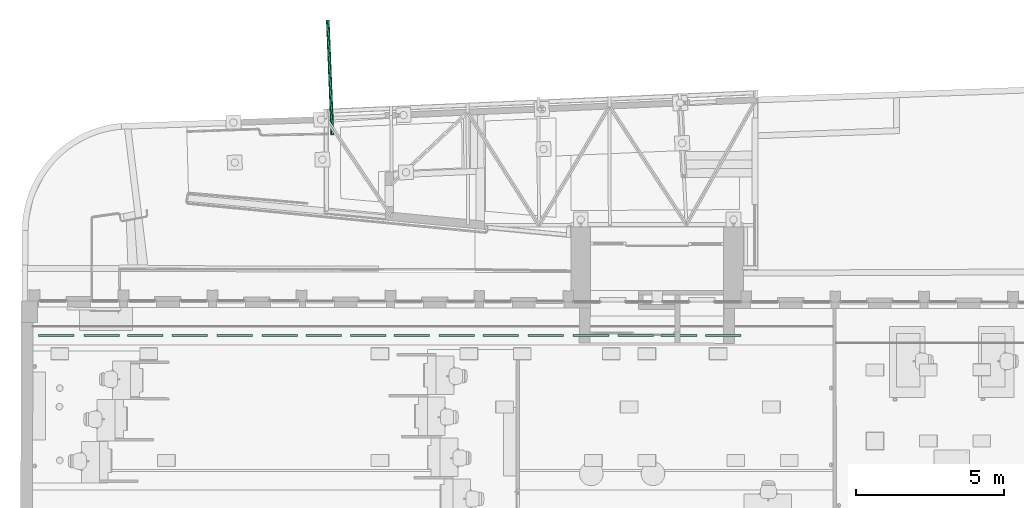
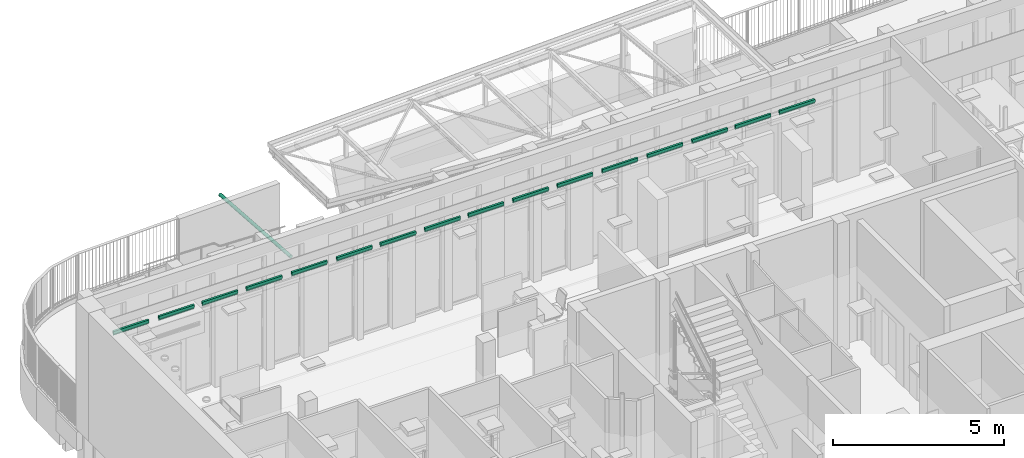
# One storey, part 66 of 128: 16 flow controllers, 1 flow segment.
"""IFC2X3 building model written with IfcOpenShell, lengths in metres."""

from ifc_helpers import new_model, entity, si_unit, converted_unit, derived_unit, direction, frame, origin, origin_2d_with_axis, place, context, subcontext, project, spatial, circle, extrude, faceted_brep, source, transform, mapped, material, material_list, type_object, type_shapes, element, save


model = new_model("IFC2X3")

# Units and contexts
model_context = context("Model", 3, precision=1e-05, world=origin(), true_north=direction((6.123031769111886e-17, 1.0)))
body_context = subcontext(model_context, "Body", "Model", "MODEL_VIEW")
ifc_project = project(units=[si_unit("LENGTHUNIT", "METRE"), si_unit("AREAUNIT", "SQUARE_METRE"), converted_unit("PLANEANGLEUNIT", "DEGREE", entity("IfcPlaneAngleMeasure", 0.017453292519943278), si_unit("PLANEANGLEUNIT", "RADIAN"), dimensions=[0, 0, 0, 0, 0, 0, 0]), derived_unit("THERMALTRANSMITTANCEUNIT", [(si_unit("MASSUNIT", "GRAM", prefix="KILO"), 1), (si_unit("THERMODYNAMICTEMPERATUREUNIT", "KELVIN"), -1), (si_unit("TIMEUNIT", "SECOND"), -3)])], contexts=[model_context])

# Site, building, storey
site_placement = place(None, origin())
site = spatial("IfcSite", under=ifc_project, at=site_placement, Name="Default", CompositionType="ELEMENT")
building_placement = place(site_placement, origin())
building = spatial("IfcBuilding", under=site, at=building_placement, CompositionType="ELEMENT")
storey_placement = place(building_placement, origin())
storey = spatial("IfcBuildingStorey", under=building, at=storey_placement, Name="00_RDC CAF", CompositionType="ELEMENT", Elevation=2.4982504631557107e-13)

# Flow controllers
ifc_material_1 = material(Name="<Unnamed>")
ifc_material_2 = material(Name="ARC - Eq CVC - Blanc")
ifc_material_list = material_list([ifc_material_1, ifc_material_2])
air_terminal_box_type = type_object("IfcAirTerminalBoxType", Name="Eq_CVC_Bouche_rectangulaire_soufflage_1_fente:Eq_CVC_Bouche_rectangulaire_soufflage_1_fente_1200x70mm", PredefinedType="NOTDEFINED", material=ifc_material_list)
shared_shape = source(origin(), body_context, "Body", "Brep", [
    faceted_brep([(0.600000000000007, 0.03499999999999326, -0.14999999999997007), (0.600000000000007, -0.035000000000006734, -0.14999999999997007), (-0.5999999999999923, -0.035000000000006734, -0.14999999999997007), (-0.5999999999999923, 0.03499999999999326, -0.14999999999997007), (0.600000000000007, 0.03499999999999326, -0.050000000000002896), (-0.5999999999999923, 0.03499999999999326, -0.050000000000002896), (-0.5999999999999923, -0.035000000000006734, -0.050000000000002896), (0.600000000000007, -0.035000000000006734, -0.050000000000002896)], [[[0, 1, 2, 3]], [[4, 5, 6, 7]], [[5, 4, 0, 3]], [[6, 5, 3, 2]], [[7, 6, 2, 1]], [[4, 7, 1, 0]]]),
    faceted_brep([(0.599000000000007, 0.011499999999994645, -0.05000000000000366), (0.599000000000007, 0.011499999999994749, 0.0), (0.599000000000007, -0.011500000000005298, 0.0), (0.5990000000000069, -0.011500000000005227, -0.05000000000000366), (0.5950000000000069, 0.007499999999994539, 0.0009999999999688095), (0.5950000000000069, 0.0074999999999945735, -0.05000000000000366), (0.5950000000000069, -0.007500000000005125, -0.05000000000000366), (0.5950000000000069, -0.0075000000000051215, 0.0009999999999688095), (-0.5989999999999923, -0.011500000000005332, 0.0), (-0.5989999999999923, -0.011500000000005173, -0.05000000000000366), (-0.5949999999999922, -0.007500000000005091, -0.05000000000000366), (-0.5949999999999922, -0.007500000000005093, 0.0009999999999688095), (-0.5989999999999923, 0.011499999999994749, 0.0), (-0.5989999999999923, 0.011499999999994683, -0.05000000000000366), (-0.5949999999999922, 0.007499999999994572, -0.05000000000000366), (-0.5949999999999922, 0.007499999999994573, 0.0009999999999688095), (0.600000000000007, -0.012500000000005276, 0.0), (-0.5999999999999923, -0.01250000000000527, 0.0), (-0.5999999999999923, 0.012499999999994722, 0.0), (0.600000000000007, 0.012499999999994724, 0.0), (0.600000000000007, 0.012499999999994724, 0.0009999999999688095), (0.600000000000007, -0.012500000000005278, 0.0009999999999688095), (-0.5999999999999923, -0.012500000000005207, 0.0009999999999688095), (-0.5999999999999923, 0.012499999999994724, 0.0009999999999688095)], [[[0, 1, 2, 3]], [[4, 5, 6, 7]], [[3, 2, 8, 9]], [[7, 6, 10, 11]], [[9, 8, 12, 13]], [[11, 10, 14, 15]], [[1, 12, 8, 2], [16, 17, 18, 19]], [[13, 12, 1, 0]], [[3, 9, 13, 0], [5, 14, 10, 6]], [[15, 14, 5, 4]], [[19, 20, 21, 16]], [[16, 21, 22, 17]], [[17, 22, 23, 18]], [[7, 11, 15, 4], [20, 23, 22, 21]], [[18, 23, 20, 19]]], outer=[[True], [True], [True], [True], [True], [True], [False, True], [True], [True, False], [True], [True], [True], [True], [False, True], [True]]),
])
type_shapes(air_terminal_box_type, [shared_shape])
for number, where, z_axis, x_axis, name in (
    (1, (9.015233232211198, 143.00348300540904, 3.849999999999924), (0.0, 0.0, -1.0), (1.0, 0.0, 0.0), "Eq_CVC_Bouche_rectangulaire_soufflage_1_fente:Eq_CVC_Bouche_rectangulaire_soufflage_1_fente_1200x70mm"),
    (2, (7.477233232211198, 143.00348300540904, 3.849999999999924), (0.0, 0.0, -1.0), (1.0, 0.0, 0.0), "Eq_CVC_Bouche_rectangulaire_soufflage_1_fente:Eq_CVC_Bouche_rectangulaire_soufflage_1_fente_1200x70mm"),
    (3, (10.484096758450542, 143.00348300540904, 3.849999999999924), (0.0, 0.0, -1.0), (1.0, 0.0, 0.0), "Eq_CVC_Bouche_rectangulaire_soufflage_1_fente:Eq_CVC_Bouche_rectangulaire_soufflage_1_fente_1200x70mm"),
    (4, (11.980233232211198, 143.00348300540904, 3.849999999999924), (0.0, 0.0, -1.0), (1.0, 0.0, 0.0), "Eq_CVC_Bouche_rectangulaire_soufflage_1_fente:Eq_CVC_Bouche_rectangulaire_soufflage_1_fente_1200x70mm"),
    (5, (13.508233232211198, 143.00348300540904, 3.849999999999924), (0.0, 0.0, -1.0), (1.0, 0.0, 0.0), "Eq_CVC_Bouche_rectangulaire_soufflage_1_fente:Eq_CVC_Bouche_rectangulaire_soufflage_1_fente_1200x70mm"),
    (6, (15.0262332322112, 143.00348300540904, 3.849999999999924), (0.0, 0.0, -1.0), (1.0, 0.0, 0.0), "Eq_CVC_Bouche_rectangulaire_soufflage_1_fente:Eq_CVC_Bouche_rectangulaire_soufflage_1_fente_1200x70mm"),
    (7, (16.5032332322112, 143.00348300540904, 3.849999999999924), (0.0, 0.0, -1.0), (1.0, 0.0, 0.0), "Eq_CVC_Bouche_rectangulaire_soufflage_1_fente:Eq_CVC_Bouche_rectangulaire_soufflage_1_fente_1200x70mm"),
    (8, (18.003233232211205, 143.00348300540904, 3.849999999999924), (0.0, 0.0, -1.0), (1.0, 0.0, 0.0), "Eq_CVC_Bouche_rectangulaire_soufflage_1_fente:Eq_CVC_Bouche_rectangulaire_soufflage_1_fente_1200x70mm"),
    (9, (19.472233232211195, 143.00348300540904, 3.849999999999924), (0.0, 0.0, -1.0), (1.0, 0.0, 0.0), "Eq_CVC_Bouche_rectangulaire_soufflage_1_fente:Eq_CVC_Bouche_rectangulaire_soufflage_1_fente_1200x70mm"),
    (10, (20.982233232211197, 143.00348300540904, 3.849999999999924), (0.0, 0.0, -1.0), (1.0, 0.0, 0.0), "Eq_CVC_Bouche_rectangulaire_soufflage_1_fente:Eq_CVC_Bouche_rectangulaire_soufflage_1_fente_1200x70mm"),
    (11, (22.478233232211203, 143.00348300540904, 3.849999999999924), (0.0, 0.0, -1.0), (1.0, 0.0, 0.0), "Eq_CVC_Bouche_rectangulaire_soufflage_1_fente:Eq_CVC_Bouche_rectangulaire_soufflage_1_fente_1200x70mm"),
    (12, (23.9912332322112, 143.00348300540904, 3.849999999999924), (0.0, 0.0, -1.0), (1.0, 0.0, 0.0), "Eq_CVC_Bouche_rectangulaire_soufflage_1_fente:Eq_CVC_Bouche_rectangulaire_soufflage_1_fente_1200x70mm"),
    (13, (25.5152332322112, 143.00348300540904, 3.849999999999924), (0.0, 0.0, -1.0), (1.0, 0.0, 0.0), "Eq_CVC_Bouche_rectangulaire_soufflage_1_fente:Eq_CVC_Bouche_rectangulaire_soufflage_1_fente_1200x70mm"),
    (14, (29.978233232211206, 143.00348300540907, 3.849999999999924), (0.0, 0.0, -1.0), (1.0, 0.0, 0.0), "Eq_CVC_Bouche_rectangulaire_soufflage_1_fente:Eq_CVC_Bouche_rectangulaire_soufflage_1_fente_1200x70mm"),
    (15, (28.48414904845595, 143.00348300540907, 3.849999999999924), (0.0, 0.0, -1.0), (1.0, 0.0, 0.0), "Eq_CVC_Bouche_rectangulaire_soufflage_1_fente:Eq_CVC_Bouche_rectangulaire_soufflage_1_fente_1200x70mm"),
    (16, (27.027149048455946, 143.00348300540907, 3.849999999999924), (0.0, 0.0, -1.0), (1.0, 0.0, 0.0), "Eq_CVC_Bouche_rectangulaire_soufflage_1_fente:Eq_CVC_Bouche_rectangulaire_soufflage_1_fente_1200x70mm"),
):
    element("IfcFlowController", number, at=place(storey_placement, frame(where, z_axis=z_axis, x_axis=x_axis)), inside=storey, type_object=air_terminal_box_type, material=ifc_material_list, Name=name, ObjectType="Eq_CVC_Bouche_rectangulaire_soufflage_1_fente:Eq_CVC_Bouche_rectangulaire_soufflage_1_fente_1200x70mm", context=body_context, shape_type="MappedRepresentation", body=[
        mapped(shared_shape, transform((0.0, 0.0, 0.0), scale=1.0)),
    ])

# Flow segment
pipe_segment_type = type_object("IfcPipeSegmentType", Name="Canalisation:Par défaut", PredefinedType="NOTDEFINED")
flow_segment_placement = place(storey_placement, origin())
element("IfcFlowSegment", 17, at=flow_segment_placement, inside=storey, type_object=pipe_segment_type, Name="Canalisation:Par défaut", ObjectType="Canalisation:Par défaut", context=body_context, shape_type="SweptSolid", body=[
    extrude(circle(Radius=0.057150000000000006, at=origin_2d_with_axis()), frame((16.639011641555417, 153.64021367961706, -0.9942201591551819), z_axis=(0.040174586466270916, -0.9989925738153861, 0.019996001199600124), x_axis=(0.9991923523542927, 0.0401826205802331, 0.0)), (0.0, 0.0, 1.0), 3.8717820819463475),
])

save(model, "model.ifc")
